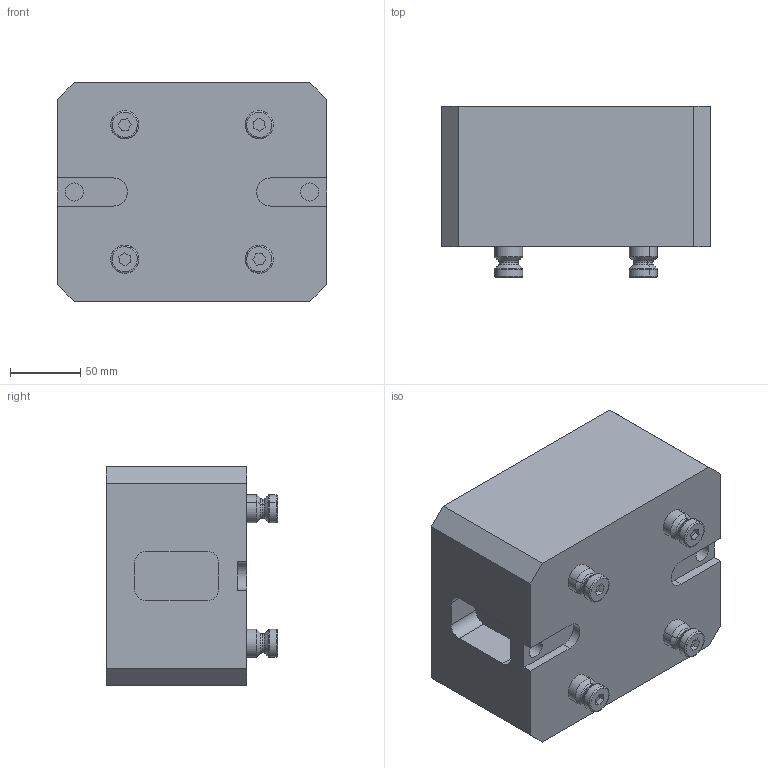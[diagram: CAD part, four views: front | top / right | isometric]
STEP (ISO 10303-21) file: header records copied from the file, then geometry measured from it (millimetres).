
FILE_DESCRIPTION (( 'STEP AP203' ), '1' );
FILE_NAME ('44100.STEP', '2012-10-24T13:46:28', ( '' ), ( '' ), 'SwSTEP 2.0', 'SolidWorks 2011', '' );
FILE_SCHEMA (( 'CONFIG_CONTROL_DESIGN' ));
Length unit declared in the file: millimetre
Products named in the file (1): 44100
Bounding box: 192 x 122 x 156 mm (x, y, z)
Volume: 2852218.5 mm3; surface area: 154782.6 mm2
Topology: 5 solids, 5 shells, 245 faces, 551 edges, 326 vertices
Faces by surface type: cylinder 87, plane 78, cone 48, torus 32
Entity records: 6724 total; most frequent: DIRECTION 1273, CARTESIAN_POINT 1099, ORIENTED_EDGE 1054, EDGE_CURVE 527, AXIS2_PLACEMENT_3D 500, VERTEX_POINT 326, EDGE_LOOP 283, LINE 273
